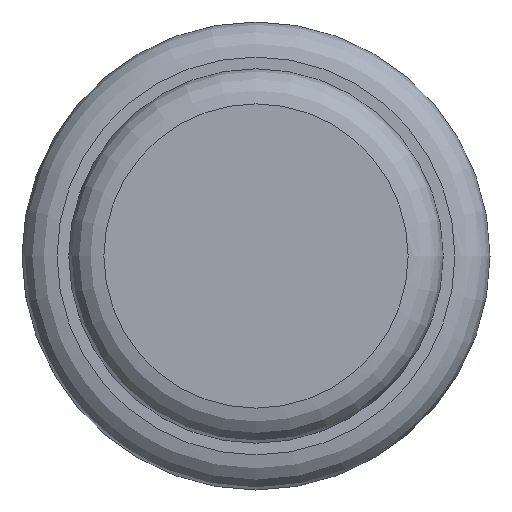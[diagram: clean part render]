
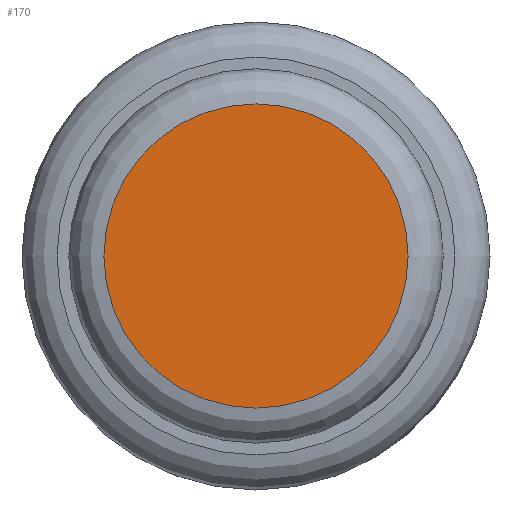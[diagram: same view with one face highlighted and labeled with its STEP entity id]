
A CAD part, front view. The second image highlights one B-rep face of the part: STEP entity #170.
In plain terms, the highlighted planar face has unit normal (0, -1, 0).
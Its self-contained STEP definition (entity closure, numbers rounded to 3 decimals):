
#145=CARTESIAN_POINT('',(-12.488,-32.075,-16.0));
#146=DIRECTION('',(0.0,1.0,0.0));
#147=DIRECTION('',(0.0,0.0,1.0));
#148=AXIS2_PLACEMENT_3D('',#145,#146,#147);
#149=PLANE('',#148);
#150=CARTESIAN_POINT('',(10.012,-32.075,0.0));
#151=VERTEX_POINT('',#150);
#152=CARTESIAN_POINT('',(-2.988,-32.075,0.0));
#153=VERTEX_POINT('',#152);
#154=CARTESIAN_POINT('',(3.512,-32.075,0.0));
#155=DIRECTION('',(0.0,-1.0,0.0));
#156=DIRECTION('',(1.0,0.0,0.0));
#157=AXIS2_PLACEMENT_3D('',#154,#155,#156);
#158=CIRCLE('',#157,6.5);
#159=EDGE_CURVE('',#151,#153,#158,.T.);
#160=ORIENTED_EDGE('',*,*,#159,.T.);
#161=CARTESIAN_POINT('',(3.512,-32.075,0.0));
#162=DIRECTION('',(0.0,-1.0,0.0));
#163=DIRECTION('',(1.0,0.0,0.0));
#164=AXIS2_PLACEMENT_3D('',#161,#162,#163);
#165=CIRCLE('',#164,6.5);
#166=EDGE_CURVE('',#153,#151,#165,.T.);
#167=ORIENTED_EDGE('',*,*,#166,.T.);
#168=EDGE_LOOP('',(#160,#167));
#169=FACE_OUTER_BOUND('',#168,.T.);
#170=ADVANCED_FACE('',(#169),#149,.F.);
